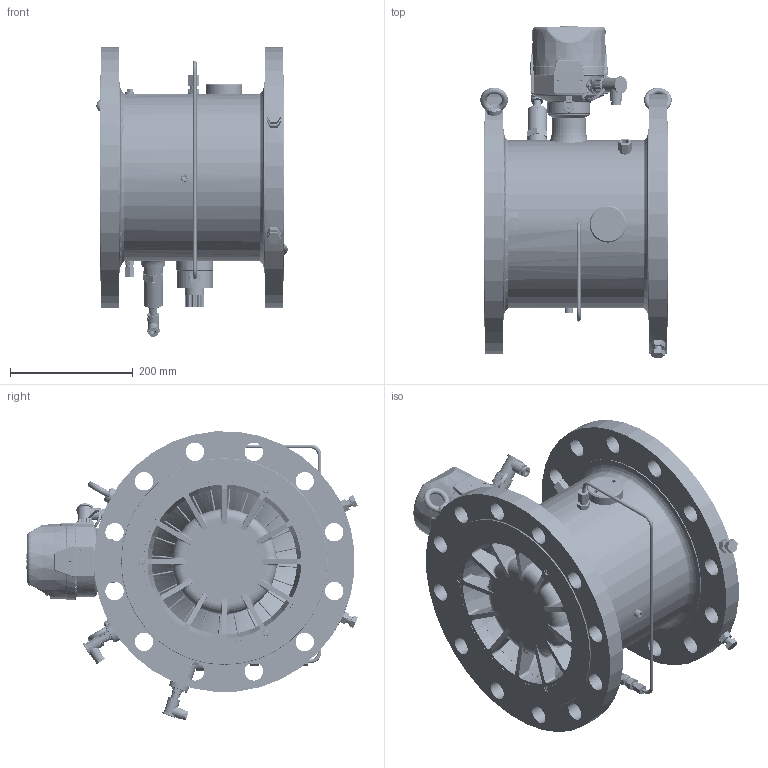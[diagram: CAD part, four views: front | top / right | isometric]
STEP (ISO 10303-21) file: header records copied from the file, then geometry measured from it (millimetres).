
FILE_DESCRIPTION((''),'2;1');
FILE_NAME('063825_1_R_ASM','2022-08-23T15:05:30',('R17397'),(''),'CREO PARAMETRIC BY PTC INC, 2020281','CREO PARAMETRIC BY PTC INC, 2020281','');
FILE_SCHEMA(('AP242_MANAGED_MODEL_BASED_3D_ENGINEERING_MIM_LF { 1 0 10303 442 1 1 4 }'));
Products named in the file (259): 063676_1_ROHR_ROH_AF0; RST37-2_10038; 063676_1_FLANSCH_ROH_AF1; 063676_1_FLANSCH_ROH_AF0; 062903_4_V00_AF0; 056772_4_AF0; PTC_SYSTEM_MTRL_PROPS; 056772_4; 063676_1_RUNDNAHT_1_AF0; 063676_1_RUNDNAHT_2_AF0; 063676_1_STUTZENNAHT_ZAHLWERK_AF0; 063674_4_AF0; 063674_4_AF3; 063676_1_STUTZENNAHT_HF3_1_AF0; 933M12X35; 934M12; 14301_X5CRNI1810; 063676_1_STUTZENNAHT_HF3_2_AF0; 063676_1_FERTIG_ASM; 047347_2_AF2; ALU; 047346_2; 047359_4; 047360_4; 047345_1_LAGER_VORNE_MESS_DN250; 047345_1_LAGER_HINTEN_MESS_250; 046618_4; 1M5X12; STAHL_ALLGEMEIN; 046620_4; 046622_4; 84M5X6; 047345_1_GESTANZTE_RONDE; 047345_1_SCHEIBENFEDER_MESS_250; 046619_4; 046565_2; 985M12; 047358_3; O_RING_MESS_250; PE_LD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
Assembly tree (202 placements, depth 5):
  RST37-2_10038
  RST37-2_10038
  RST37-2_10038
  RST37-2_10038
  PTC_SYSTEM_MTRL_PROPS
Bounding box: 311.47 x 540.25 x 470.95 mm (x, y, z)
Volume: 10927383.2 mm3; surface area: 2550214.4 mm2
Topology: 202 solids, 285 shells, 6981 faces, 17011 edges, 10485 vertices
Faces by surface type: plane 2531, cylinder 2418, cone 715, bspline 649, torus 516, extrusion 106, sphere 46
Entity records: 309712 total; most frequent: CARTESIAN_POINT 85744, DIRECTION 27920, ORIENTED_EDGE 24804, EDGE_CURVE 12552, AXIS2_PLACEMENT_3D 10923, PROPERTY_DEFINITION 10877, REPRESENTATION 10613, PROPERTY_DEFINITION_REPRESENTATION 10613
